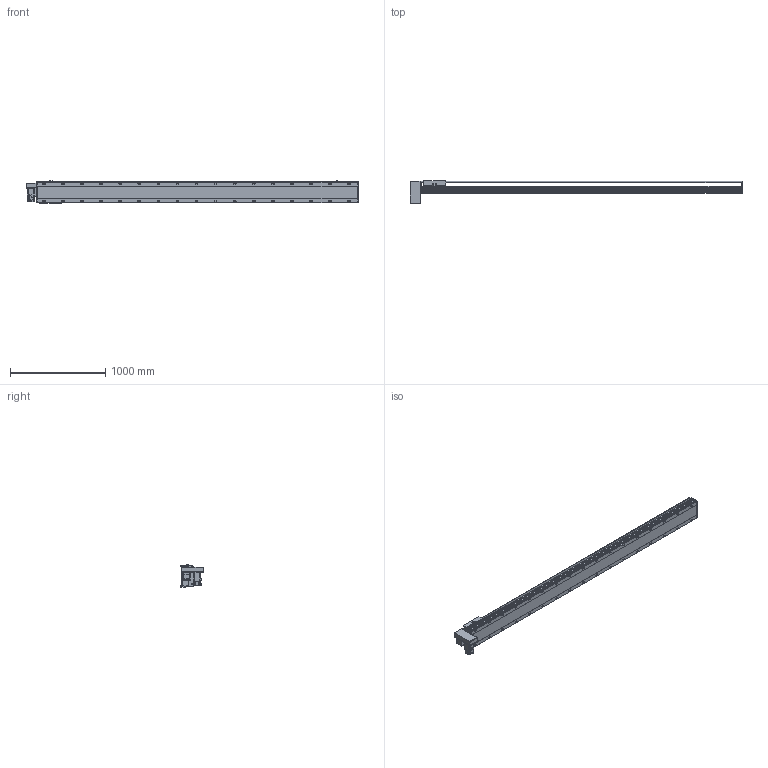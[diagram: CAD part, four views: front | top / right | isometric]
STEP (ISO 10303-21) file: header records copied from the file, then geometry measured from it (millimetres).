
FILE_DESCRIPTION(/* description */ ('STEP AP214'),/* implementation_level */ '2;1');
FILE_NAME(/* name */ 'PBS220-P40-S3000-RD-T75-C1-N(0)',/* time_stamp */ '2022-06-13T02:47:27+02:00',/* author */ ('License CC BY-ND 4.0'),/* organization */ ('CADENAS'),/* preprocessor_version */ 'ST-DEVELOPER v18.102',/* originating_system */ 'PARTsolutions',/* authorisation */ ' ');
FILE_SCHEMA (('AUTOMOTIVE_DESIGN {1 0 10303 214 3 1 1}'));
Length unit declared in the file: millimetre
Products named in the file (7): PBS220-P40-S3000-RD-T75-C1-N(0); PBS220_sensor; PBS220_plant; PBS220_sliser; T75-p1; PBS220T-RD_motors; PBS220-S3000()_body
Assembly tree (8 placements, depth 2):
  PBS220-P40-S3000-RD-T75-C1-N(0)
    PBS220_sensor  x3
    PBS220_plant
    PBS220_sliser
    T75-p1
    PBS220T-RD_motors
    PBS220-S3000()_body
Bounding box: 3484 x 239 x 238.5 mm (x, y, z)
Volume: 48396081.2 mm3; surface area: 4391206.3 mm2
Topology: 8 solids, 8 shells, 1022 faces, 2648 edges, 1720 vertices
Faces by surface type: plane 634, cylinder 330, cone 58
Full cylindrical faces by diameter (mm): 2.013 x4, 4.5 x14, 4.917 x4, 6 x7, 6.647 x8, 8 x10, 8.376 x34, 8.5 x34, 10 x6, 14 x34, 38 x2, 40 x1, 70 x1
Entity records: 28437 total; most frequent: CARTESIAN_POINT 5086, DIRECTION 4941, ORIENTED_EDGE 4430, EDGE_CURVE 2215, AXIS2_PLACEMENT_3D 1789, VERTEX_POINT 1560, LINE 1363, VECTOR 1363
